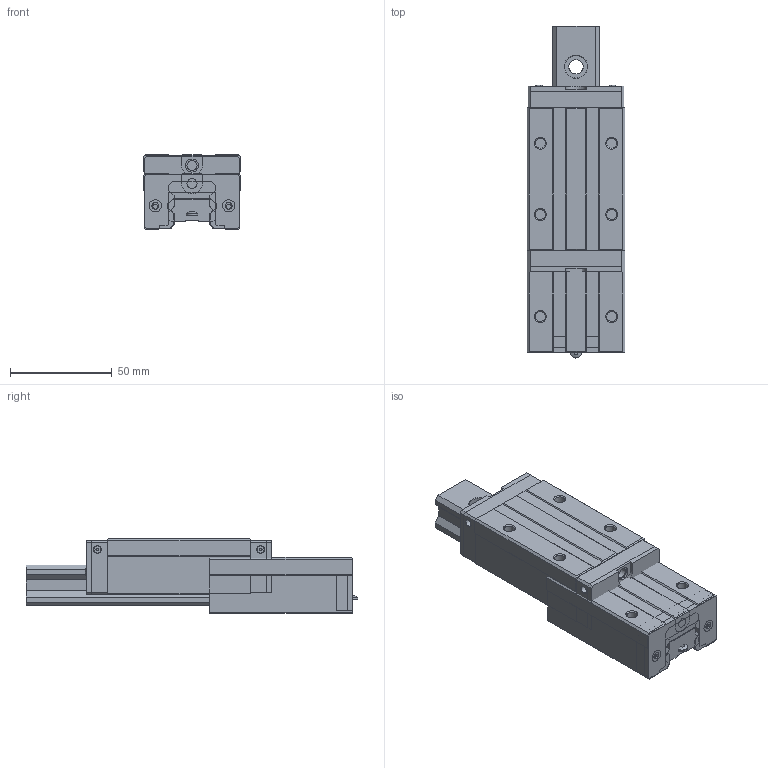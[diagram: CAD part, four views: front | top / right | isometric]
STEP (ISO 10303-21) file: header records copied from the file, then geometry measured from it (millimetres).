
FILE_DESCRIPTION( ( 'Unknown' ), '1' );
FILE_NAME( 'C:/Documents and Settings/USER/官帕 拳搁/沥脚 粱 瞒妨扼/25/SBI 25 CL.stp', 'Unknown', ( 'Unknown' ), ( 'Unknown' ), 'XStep 1.0', 'Unknown', ' ' );
FILE_SCHEMA( ( 'automotive_design' ) );
Length unit declared in the file: millimetre
Products named in the file (6): Assem1; RAIL; EP; ES; M3(5.5-2); CL
Bounding box: 48 x 162.75 x 36.75 mm (x, y, z)
Volume: 269036.3 mm3; surface area: 80582.4 mm2
Topology: 15 solids, 15 shells, 498 faces, 1277 edges, 843 vertices
Faces by surface type: plane 353, cylinder 104, cone 26, torus 10, bspline 5
Full cylindrical faces by diameter (mm): 1 x6, 2.459 x8, 3.4 x12, 3.5 x6, 4.917 x16, 4.966 x3, 5.5 x5, 6 x6, 6.4 x3, 7 x6, 11 x6
Entity records: 5940 total; most frequent: CARTESIAN_POINT 993, DIRECTION 932, ORIENTED_EDGE 864, EDGE_CURVE 432, LINE 326, VECTOR 326, VERTEX_POINT 308, AXIS2_PLACEMENT_3D 303
